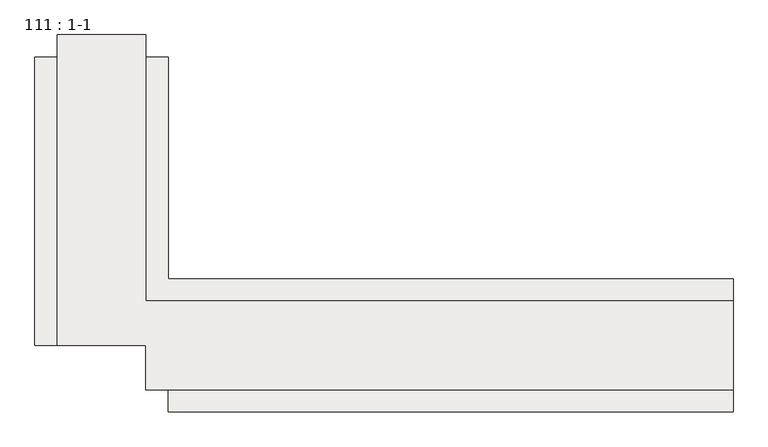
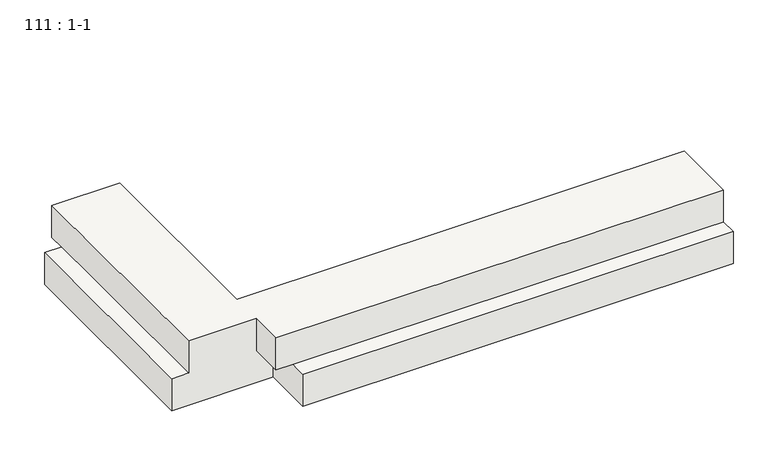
"""IFC4 building model written with IfcOpenShell, lengths in millimetres: slab geometry, 111 : 1-1."""

import ifcopenshell
import ifcopenshell.guid

model = None  # the IFC model being written
_history = None  # IfcOwnerHistory: only IFC2X3 demands one
_inside = {}  # id of a spatial element -> (the spatial element, [elements in it])
_under = {}  # id of a project, library or spatial element -> (it, [spatial elements below it])
_declared = {}  # id of a project -> (the project, [libraries it declares])
_typed = {}  # id of a type object -> (the type object, [elements of that type])
_made_of = {}  # id of a material, layer set ... -> (it, [elements and type objects made of it])


def new_model(schema):
    """Start an empty IFC model of exactly this schema.

    Asked for "IFC4X3", IfcOpenShell would pick the latest addendum, in which some entities
    have other attributes; the version numbers below select the first issue.
    IFC2X3 requires an IfcOwnerHistory on every rooted entity: one is made here for all.
    """
    global model, _history
    if schema == "IFC4X3":
        model = ifcopenshell.file(schema_version=(4, 3, 0, 0))
    else:
        model = ifcopenshell.file(schema=schema)
    _inside.clear()
    _under.clear()
    _declared.clear()
    _typed.clear()
    _made_of.clear()
    _history = None
    if model.schema == "IFC2X3":
        org = make("IfcOrganization", Name="unknown")
        user = make(
            "IfcPersonAndOrganization",
            ThePerson=make("IfcPerson", FamilyName="unknown"),
            TheOrganization=org,
        )
        app = make(
            "IfcApplication",
            ApplicationDeveloper=org,
            Version="unknown",
            ApplicationFullName="unknown",
            ApplicationIdentifier="unknown",
        )
        _history = make(
            "IfcOwnerHistory",
            OwningUser=user,
            OwningApplication=app,
            ChangeAction="ADDED",
            CreationDate=0,
        )
    return model


def make(cls, **values):
    """One entity of the class cls with the attributes given. An attribute that is None is left unset."""
    return model.create_entity(
        cls, **{name: value for name, value in values.items() if value is not None}
    )


def rooted(cls, **values):
    """An entity with a GlobalId (a new one), such as an element, a storey or a relation."""
    return make(cls, GlobalId=ifcopenshell.guid.new(), OwnerHistory=_history, **values)


def si_unit(unit_type, name, prefix=None):
    """IfcSIUnit, for example si_unit("LENGTHUNIT", "METRE", prefix="MILLI")."""
    return make("IfcSIUnit", UnitType=unit_type, Prefix=prefix, Name=name)


def assignment(units):
    """IfcUnitAssignment: the units of a project."""
    return None if units is None else make("IfcUnitAssignment", Units=units)


def point(xyz):
    """IfcCartesianPoint."""
    return None if xyz is None else make("IfcCartesianPoint", Coordinates=xyz)


def direction(xyz):
    """IfcDirection."""
    return None if xyz is None else make("IfcDirection", DirectionRatios=xyz)


def frame(location, z_axis=None, x_axis=None):
    """IfcAxis2Placement3D, a coordinate frame: its origin and axes. An axis left out is left unset."""
    return make(
        "IfcAxis2Placement3D",
        Location=point(location),
        Axis=direction(z_axis),
        RefDirection=direction(x_axis),
    )


def origin():
    """The frame at (0, 0, 0) with its axes left unset."""
    return frame((0.0, 0.0, 0.0))


def place(relative_to, where):
    """IfcLocalPlacement: puts the frame where relative to a parent placement (None: the world)."""
    return make(
        "IfcLocalPlacement", PlacementRelTo=relative_to, RelativePlacement=where
    )


def context(
    kind, dimensions, precision=None, world=None, true_north=None, identifier=None
):
    """IfcGeometricRepresentationContext, for example the 3D "Model" context."""
    return make(
        "IfcGeometricRepresentationContext",
        ContextIdentifier=identifier,
        ContextType=kind,
        CoordinateSpaceDimension=dimensions,
        Precision=precision,
        WorldCoordinateSystem=world,
        TrueNorth=true_north,
    )


def project(units=None, contexts=None):
    """IfcProject with its units and contexts."""
    return rooted(
        "IfcProject",
        Name="project",
        RepresentationContexts=contexts,
        UnitsInContext=assignment(units),
    )


def spatial(cls, under=None, at=None, **own):
    """A site, building, storey or space (cls), placed at a placement, below another one or the project."""
    s = rooted(cls, ObjectPlacement=at, **own)
    if under is not None:
        _under.setdefault(under.id(), (under, []))[1].append(s)
    return s


def faces_of(points, faces, orient=None, outer=None):
    """IfcFace entities. A face is a list of loops; a loop is a list of indices into points, from 0.

    orient and outer hold one flag for each loop. By default every Orientation is true, the
    first loop of a face is its IfcFaceOuterBound and the others are IfcFaceBound.
    """
    made = []
    for i, loops in enumerate(faces):
        bounds = []
        for j, loop in enumerate(loops):
            is_outer = j == 0 if outer is None else outer[i][j]
            bounds.append(
                make(
                    "IfcFaceOuterBound" if is_outer else "IfcFaceBound",
                    Bound=make("IfcPolyLoop", Polygon=[points[k] for k in loop]),
                    Orientation=True if orient is None else orient[i][j],
                )
            )
        made.append(make("IfcFace", Bounds=bounds))
    return made


def faceted_brep(points, faces, orient=None, outer=None, voids=None):
    """IfcFacetedBrep: a solid bounded by flat faces; with voids (closed shells), ...WithVoids."""
    shared = [point(p) for p in points]
    hull = make("IfcClosedShell", CfsFaces=faces_of(shared, faces, orient, outer))
    if voids is None:
        return make("IfcFacetedBrep", Outer=hull)
    return make(
        "IfcFacetedBrepWithVoids",
        Outer=hull,
        Voids=[
            make(cls, CfsFaces=faces_of(shared, fs, o, b)) for cls, fs, o, b in voids
        ],
    )


def shape(context_of_items, identifier, shape_type, items):
    """IfcShapeRepresentation: the items that make up one representation, for example the "Body"."""
    return make(
        "IfcShapeRepresentation",
        ContextOfItems=context_of_items,
        RepresentationIdentifier=identifier,
        RepresentationType=shape_type,
        Items=items,
    )


def source(mapping_origin, context_of_items, identifier, shape_type, items):
    """IfcRepresentationMap: a shape defined once, which mapped items show again and again."""
    return make(
        "IfcRepresentationMap",
        MappingOrigin=mapping_origin,
        MappedRepresentation=shape(context_of_items, identifier, shape_type, items),
    )


def transform(
    local_origin,
    x_axis=None,
    y_axis=None,
    z_axis=None,
    scale=None,
    scale2=None,
    scale3=None,
    uniform=True,
):
    """IfcCartesianTransformationOperator3D, or its non-uniform kind. x_axis, y_axis, z_axis: its Axis1, 2, 3."""
    if uniform:
        return make(
            "IfcCartesianTransformationOperator3D",
            Axis1=direction(x_axis),
            Axis2=direction(y_axis),
            LocalOrigin=point(local_origin),
            Scale=scale,
            Axis3=direction(z_axis),
        )
    return make(
        "IfcCartesianTransformationOperator3DnonUniform",
        Axis1=direction(x_axis),
        Axis2=direction(y_axis),
        LocalOrigin=point(local_origin),
        Scale=scale,
        Axis3=direction(z_axis),
        Scale2=scale2,
        Scale3=scale3,
    )


def mapped(mapping_source, mapping_target):
    """IfcMappedItem: shows the shape of a source again, moved by a transform."""
    return make(
        "IfcMappedItem", MappingSource=mapping_source, MappingTarget=mapping_target
    )


def made_of(thing, what):
    """Note that an element or type object is made of a material, layer set ...; save() writes the relation."""
    if what is not None:
        _made_of.setdefault(what.id(), (what, []))[1].append(thing)
    return thing


def element(
    cls,
    number,
    at=None,
    inside=None,
    cuts=None,
    type_object=None,
    material=None,
    context=None,
    identifier="Body",
    shape_type=None,
    held_by="IfcProductDefinitionShape",
    body=None,
    shapes=None,
    **own,
):
    """One element of the class cls, such as IfcWall. Its Tag is "e" and its number.

    at: its placement. inside: the storey or other place that contains it. cuts: it is an
    opening in that element (IfcRelVoidsElement). A single representation is given by context,
    identifier, shape_type and body (its items); several are given by shapes. held_by: the class
    of the entity that holds the representations. save() writes the other relations.
    """
    e = rooted(cls, Tag="e%d" % number, ObjectPlacement=at, **own)
    if body is not None:
        shapes = [shape(context, identifier, shape_type, body)]
    if shapes is not None:
        e.Representation = make(held_by, Representations=shapes)
    if inside is not None:
        _inside.setdefault(inside.id(), (inside, []))[1].append(e)
    if cuts is not None:
        rooted(
            "IfcRelVoidsElement", RelatingBuildingElement=cuts, RelatedOpeningElement=e
        )
    if type_object is not None:
        _typed.setdefault(type_object.id(), (type_object, []))[1].append(e)
    return made_of(e, material)


def aggregate(whole, parts):
    """IfcRelAggregates: a whole, such as a stair, and the parts it consists of."""
    return rooted("IfcRelAggregates", RelatingObject=whole, RelatedObjects=parts)


def save(model, path):
    """Write the relations noted so far, then the file.

    IfcRelAggregates (storeys below a building ...), IfcRelContainedInSpatialStructure (elements
    in a storey), IfcRelDefinesByType, IfcRelAssociatesMaterial and IfcRelDeclares: one each for
    every whole, place, type object, material and project.
    """
    for whole, parts in _under.values():
        aggregate(whole, parts)
    for where, things in _inside.values():
        rooted(
            "IfcRelContainedInSpatialStructure",
            RelatedElements=things,
            RelatingStructure=where,
        )
    for kind, things in _typed.values():
        rooted("IfcRelDefinesByType", RelatedObjects=things, RelatingType=kind)
    for what, things in _made_of.values():
        rooted("IfcRelAssociatesMaterial", RelatedObjects=things, RelatingMaterial=what)
    for by, libraries in _declared.values():
        rooted("IfcRelDeclares", RelatingContext=by, RelatedDefinitions=libraries)
    model.write(path)


def slab_111_1_1_0dc2f856(model_context):
    return source(origin(), model_context, "Body", "Brep", [
        faceted_brep([(-17628.0662967, -2504.3219782, -900.0), (-17628.0662967, -2504.3219782, -1200.0), (-17628.0662967, -4454.3219782, -1200.0), (-17628.0662967, -4454.3219782, -900.0), (-17478.0662967, -2504.3219782, -900.0), (-17478.0662967, -4454.3219782, -900.0), (-17478.0662967, -2354.3219782, -600.0), (-17478.0662967, -2354.3219782, -900.0), (-17478.0662967, -4454.3219782, -600.0), (-12911.3423607, -4754.3219782, -600.0), (-12911.3423607, -4154.3219782, -600.0), (-16878.0662967, -4154.3219782, -600.0), (-16878.0662967, -2354.3219782, -600.0), (-16878.0662967, -4454.3219782, -600.0), (-16878.0662967, -4754.3219782, -600.0), (-16878.0662967, -4154.3219782, -900.0), (-16878.0662967, -2504.3219782, -900.0), (-16878.0662967, -2354.3219782, -900.0), (-12911.3423607, -4154.3219782, -900.0), (-12911.3423607, -4004.3219782, -900.0), (-16728.0662967, -4004.3219782, -900.0), (-16728.0662967, -2504.3219782, -900.0), (-16728.0662967, -4004.3219782, -1200.0), (-16728.0662967, -2504.3219782, -1200.0), (-12911.3423607, -4004.3219782, -1200.0), (-12911.3423607, -4904.3219782, -1200.0), (-16728.0662967, -4904.3219782, -1200.0), (-16728.0662967, -4454.3219782, -1200.0), (-12911.3423607, -4754.3219782, -900.0), (-12911.3423607, -4904.3219782, -900.0), (-16728.0662967, -4904.3219782, -900.0), (-16878.0662967, -4754.3219782, -900.0), (-16728.0662967, -4754.3219782, -900.0), (-16878.0662967, -4454.3219782, -900.0), (-16728.0662967, -4454.3219782, -900.0)], [[[0, 1, 2, 3]], [[4, 0, 3, 5]], [[6, 7, 4, 5, 8]], [[9, 10, 11, 12, 6, 8, 13, 14]], [[11, 15, 16, 17, 12]], [[15, 18, 19, 20, 21, 16]], [[20, 22, 23, 21]], [[22, 24, 25, 26, 27, 2, 1, 23]], [[28, 29, 25, 24, 19, 18, 10, 9]], [[25, 29, 30, 26]], [[28, 9, 14, 31, 32]], [[11, 10, 18, 15]], [[20, 19, 24, 22]], [[17, 7, 6, 12]], [[4, 16, 21, 23, 1, 0]], [[7, 17, 16, 4]], [[29, 28, 32, 30]], [[33, 13, 8, 5, 3, 2, 27, 34]], [[13, 33, 31, 14]], [[34, 27, 26, 30, 32]], [[33, 34, 32, 31]]]),
    ])


if __name__ == "__main__":
    model = new_model("IFC4")
    model_context = context("Model", 3, world=origin())
    ifc_project = project(units=[si_unit("LENGTHUNIT", "METRE", prefix="MILLI")], contexts=[model_context])
    site = spatial("IfcSite", under=ifc_project)
    building = spatial("IfcBuilding", under=site)
    placement = place(None, origin())
    slab_111_1_1_shape = slab_111_1_1_0dc2f856(model_context)
    element("IfcSlab", 1, ObjectType="111 : 1-1", at=placement, inside=building, context=model_context, shape_type="MappedRepresentation", body=[
        mapped(slab_111_1_1_shape, transform((0.0, 0.0, 0.0), x_axis=(1.0, 0.0, 0.0), y_axis=(0.0, 1.0, 0.0), z_axis=(0.0, 0.0, 1.0))),
    ])
    save(model, "model.ifc")
